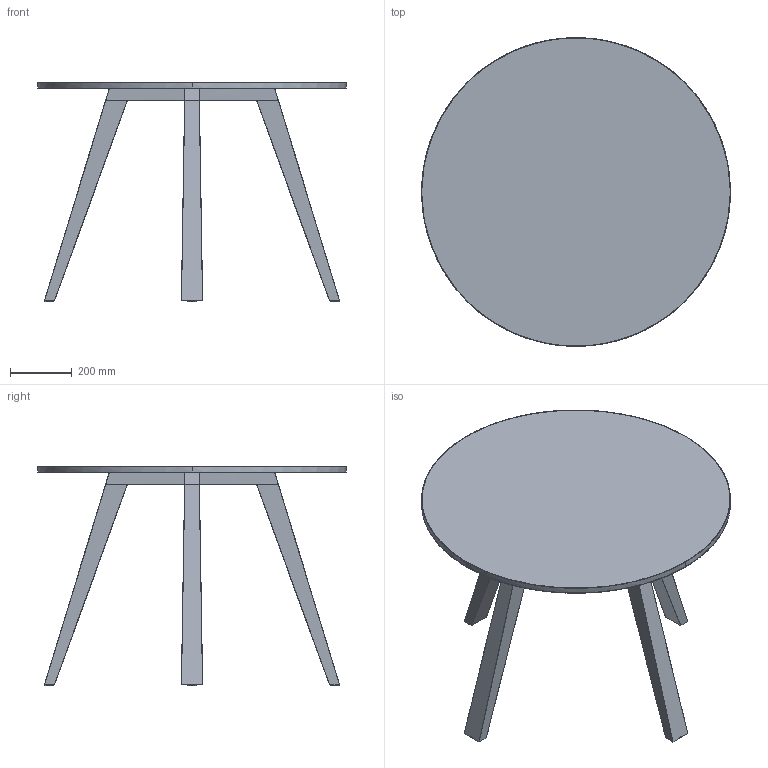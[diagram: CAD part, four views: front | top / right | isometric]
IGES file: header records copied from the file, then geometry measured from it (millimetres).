
Global section: file name: C:\Users\Mickael CHALON\OneDrive - BASTIAT SIEGES\Bureau\CN\Table Escamp\Grande table Escamp\Grande Table Escamp\Table Escamp Grand Model 3DS max.igs; native system: Rhinoceros ( Oct  8 2025 ); preprocessor: Trout Lake IGES 012 Oct  8 2025; date: 251030.100532; units: millimetre
Bounding box: 1000 x 1000 x 712.02 mm (x, y, z)
Surface area: 2456765.4 mm2 (no closed solid volume)
Topology: 0 solids, 0 shells, 174 faces, 1173 edges, 1162 vertices
Faces by surface type: bspline 174
